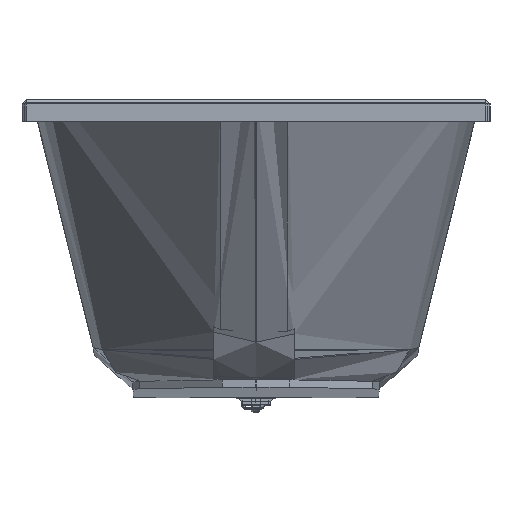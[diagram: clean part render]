
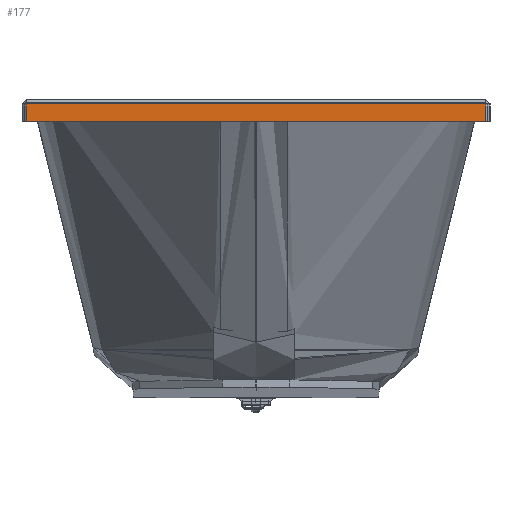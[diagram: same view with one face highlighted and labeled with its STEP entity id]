
A CAD part, left-side view. The second image highlights one B-rep face of the part: STEP entity #177.
In plain terms, the highlighted planar face has unit normal (-1, 0, 0).
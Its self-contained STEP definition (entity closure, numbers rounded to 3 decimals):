
#177=ADVANCED_FACE('',(#672),#8127,.T.);
#672=FACE_OUTER_BOUND('',#1172,.T.);
#1172=EDGE_LOOP('',(#2315,#2316,#2317,#2318));
#2315=ORIENTED_EDGE('',*,*,#4745,.T.);
#2316=ORIENTED_EDGE('',*,*,#4490,.T.);
#2317=ORIENTED_EDGE('',*,*,#4746,.T.);
#2318=ORIENTED_EDGE('',*,*,#4520,.F.);
#4490=EDGE_CURVE('',#7395,#7394,#6331,.T.);
#4520=EDGE_CURVE('',#7416,#7406,#6350,.T.);
#4745=EDGE_CURVE('',#7416,#7395,#6561,.T.);
#4746=EDGE_CURVE('',#7394,#7406,#6562,.T.);
#6331=B_SPLINE_CURVE_WITH_KNOTS('',1,(#1572046,#1572047),.UNSPECIFIED.,
 .F.,.F.,(2,2),(0.,736.),.UNSPECIFIED.);
#6350=B_SPLINE_CURVE_WITH_KNOTS('',1,(#1572117,#1572118),.UNSPECIFIED.,
 .F.,.F.,(2,2),(0.,736.),.UNSPECIFIED.);
#6561=B_SPLINE_CURVE_WITH_KNOTS('',1,(#1575868,#1575869),.UNSPECIFIED.,
 .F.,.F.,(2,2),(0.,28.),.UNSPECIFIED.);
#6562=B_SPLINE_CURVE_WITH_KNOTS('',1,(#1575870,#1575871),.UNSPECIFIED.,
 .F.,.F.,(2,2),(-28.,0.),.UNSPECIFIED.);
#7394=VERTEX_POINT('',#1568866);
#7395=VERTEX_POINT('',#1568867);
#7406=VERTEX_POINT('',#1568878);
#7416=VERTEX_POINT('',#1568888);
#8127=PLANE('',#8642);
#8642=AXIS2_PLACEMENT_3D('',#1225296,#8762,$);
#8762=DIRECTION('',(-1.,0.,0.));
#1225296=CARTESIAN_POINT('',(-833.847,-444.99,-4.14));
#1568866=CARTESIAN_POINT('',(-833.847,-371.33,-35.));
#1568867=CARTESIAN_POINT('',(-833.847,364.67,-35.));
#1568878=CARTESIAN_POINT('',(-833.847,-371.33,-7.));
#1568888=CARTESIAN_POINT('',(-833.847,364.67,-7.));
#1572046=CARTESIAN_POINT('',(-833.847,364.67,-35.));
#1572047=CARTESIAN_POINT('',(-833.847,-371.33,-35.));
#1572117=CARTESIAN_POINT('',(-833.847,364.67,-7.));
#1572118=CARTESIAN_POINT('',(-833.847,-371.33,-7.));
#1575868=CARTESIAN_POINT('',(-833.847,364.67,-7.));
#1575869=CARTESIAN_POINT('',(-833.847,364.67,-35.));
#1575870=CARTESIAN_POINT('',(-833.847,-371.33,-35.));
#1575871=CARTESIAN_POINT('',(-833.847,-371.33,-7.));
